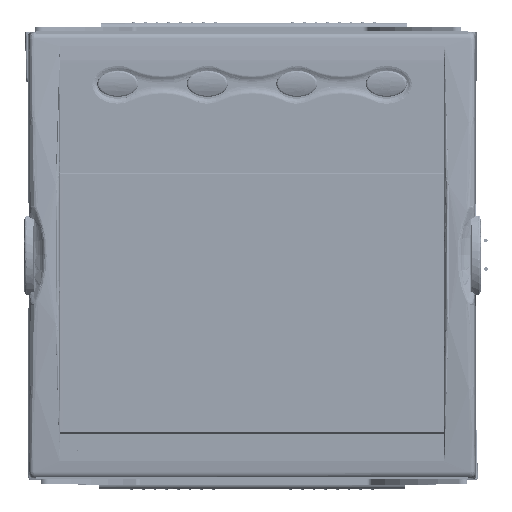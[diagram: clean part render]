
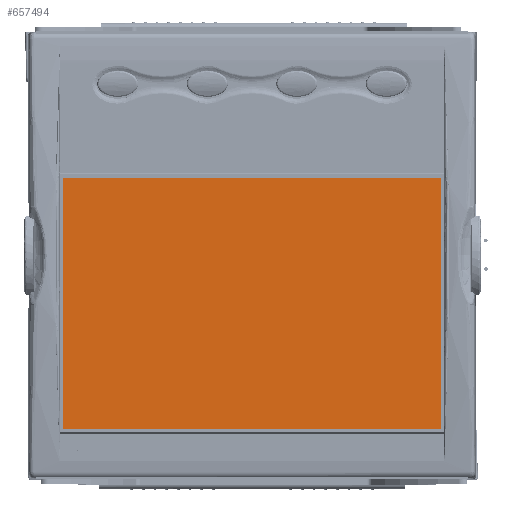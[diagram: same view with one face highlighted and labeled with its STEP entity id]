
A CAD part, top view. The second image highlights one B-rep face of the part: STEP entity #657494.
In plain terms, the highlighted planar face has unit normal (0, 0, 1).
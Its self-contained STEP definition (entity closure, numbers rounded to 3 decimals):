
#643226=DIRECTION('',(1.,0.,0.));
#643227=VECTOR('',#643226,80.9);
#643228=CARTESIAN_POINT('',(5.55,8.801,0.));
#643229=LINE('',#643228,#643227);
#643230=DIRECTION('',(0.,1.,0.));
#643231=VECTOR('',#643230,53.898);
#643232=CARTESIAN_POINT('',(86.45,8.801,0.));
#643233=LINE('',#643232,#643231);
#643238=DIRECTION('',(-1.,0.,0.));
#643239=VECTOR('',#643238,80.9);
#643240=CARTESIAN_POINT('',(86.45,62.699,0.));
#643241=LINE('',#643240,#643239);
#643246=DIRECTION('',(0.,-1.,0.));
#643247=VECTOR('',#643246,53.898);
#643248=CARTESIAN_POINT('',(5.55,62.699,0.));
#643249=LINE('',#643248,#643247);
#654677=CARTESIAN_POINT('',(5.55,8.801,0.));
#654678=CARTESIAN_POINT('',(86.45,8.801,0.));
#654679=VERTEX_POINT('',#654677);
#654680=VERTEX_POINT('',#654678);
#654681=CARTESIAN_POINT('',(5.55,62.699,0.));
#654682=VERTEX_POINT('',#654681);
#654683=CARTESIAN_POINT('',(86.45,62.699,0.));
#654684=VERTEX_POINT('',#654683);
#657479=CARTESIAN_POINT('',(46.,35.75,0.));
#657480=DIRECTION('',(0.,0.,1.));
#657481=DIRECTION('',(1.,0.,0.));
#657482=AXIS2_PLACEMENT_3D('',#657479,#657480,#657481);
#657483=PLANE('',#657482);
#657485=ORIENTED_EDGE('',*,*,#657484,.F.);
#657487=ORIENTED_EDGE('',*,*,#657486,.F.);
#657489=ORIENTED_EDGE('',*,*,#657488,.F.);
#657491=ORIENTED_EDGE('',*,*,#657490,.F.);
#657492=EDGE_LOOP('',(#657485,#657487,#657489,#657491));
#657493=FACE_OUTER_BOUND('',#657492,.F.);
#657484=EDGE_CURVE('',#654679,#654680,#643229,.T.);
#657486=EDGE_CURVE('',#654682,#654679,#643249,.T.);
#657488=EDGE_CURVE('',#654684,#654682,#643241,.T.);
#657490=EDGE_CURVE('',#654680,#654684,#643233,.T.);
#657494=ADVANCED_FACE('',(#657493),#657483,.T.);
